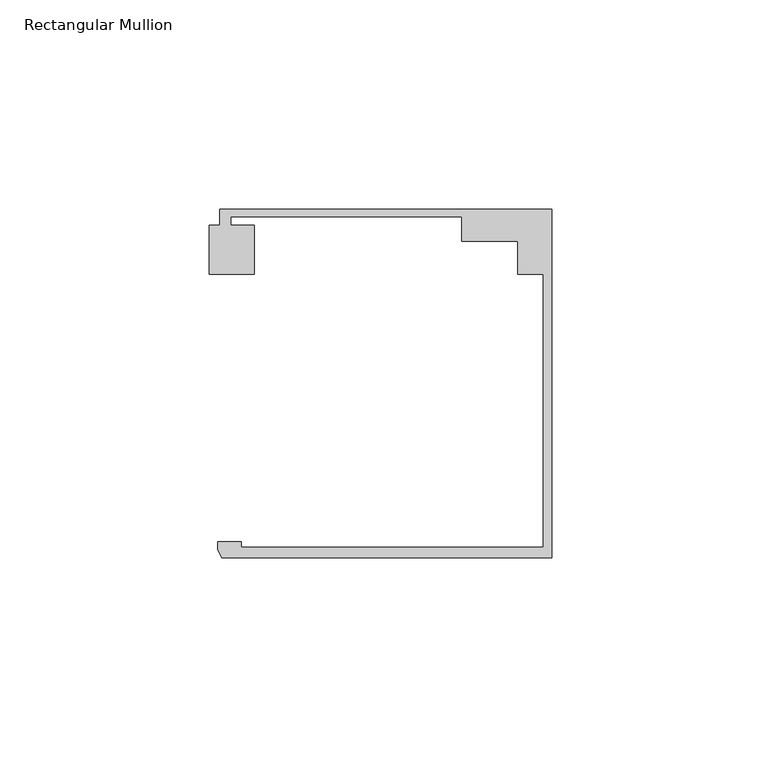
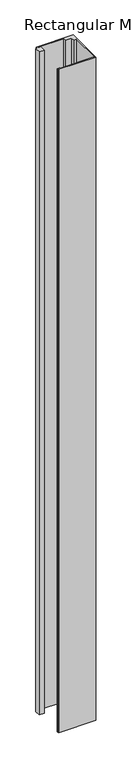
"""IFC4 building model written with IfcOpenShell, lengths in millimetres: member geometry, Rectangular Mullion : Danpal_Airpt_End-Mullion_B1."""

from ifc_helpers import new_model, si_unit, frame, origin, place, context, project, spatial, polyline, outline, extrude, source, transform, mapped, element, save


def rectangular_mullion_6ba87b63(model_context):
    return source(origin(), model_context, "Body", "SweptSolid", [
        extrude(outline(polyline([(-74.2474668, -74.9940824), (-2.0000001, -74.9940824), (-2.0000001, -9.7188964), (-8.1, -9.7188964), (-8.1, -1.8818054), (-21.5478166, -1.8818054), (-21.5478166, 4.0051512), (-76.6478166, 4.0051512), (-76.6478166, 2.0051513), (-71.1433532, 2.0051513), (-71.1433532, -9.6875514), (-81.8592324, -9.6875514), (-81.8592324, 2.0051513), (-79.3474874, 2.0051513), (-79.3474874, 5.8051514), (0.0, 5.8051514), (0.0, -77.4940825), (-78.8515009, -77.4940825), (-79.7784606, -75.5472671), (-79.7784606, -73.6940824), (-74.2474668, -73.6940824), (-74.2474668, -74.9940824)])), frame((0.0, 0.0, -1500.0), z_axis=(0.0, 0.0, 1.0), x_axis=(1.0, 0.0, 0.0)), (0.0, 0.0, 1.0), 1500.0),
    ])


if __name__ == "__main__":
    model = new_model("IFC4")
    model_context = context("Model", 3, world=origin())
    ifc_project = project(units=[si_unit("LENGTHUNIT", "METRE", prefix="MILLI")], contexts=[model_context])
    site = spatial("IfcSite", under=ifc_project)
    building = spatial("IfcBuilding", under=site)
    placement = place(None, origin())
    rectangular_mullion_shape = rectangular_mullion_6ba87b63(model_context)
    element("IfcMember", 1, ObjectType="Rectangular Mullion : Danpal_Airpt_End-Mullion_B1", at=placement, inside=building, context=model_context, shape_type="MappedRepresentation", body=[
        mapped(rectangular_mullion_shape, transform((0.0, 0.0, 0.0), x_axis=(1.0, 0.0, 0.0), y_axis=(0.0, 1.0, 0.0), z_axis=(0.0, 0.0, 1.0))),
    ])
    save(model, "model.ifc")
